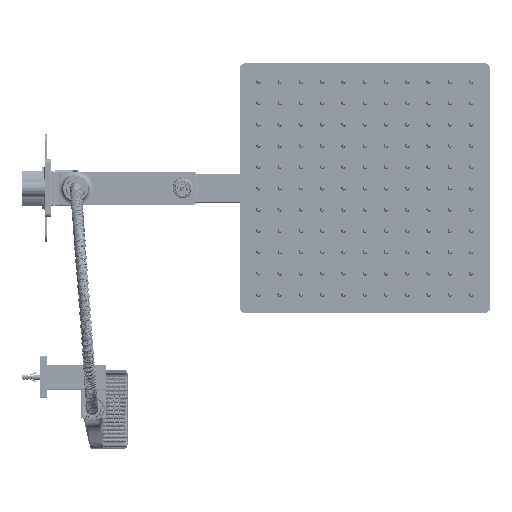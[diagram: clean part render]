
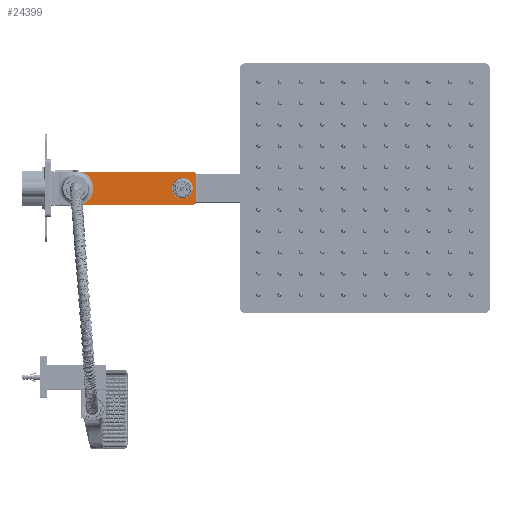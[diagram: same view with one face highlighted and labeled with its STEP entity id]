
A CAD part, front view. The second image highlights one B-rep face of the part: STEP entity #24399.
In plain terms, the highlighted planar face has unit normal (0, -1, 0).
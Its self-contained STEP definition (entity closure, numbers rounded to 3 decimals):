
#20790=DIRECTION('',(1.,0.,0.));
#20791=VECTOR('',#20790,132.463);
#20792=CARTESIAN_POINT('',(7.537,-16.,
-19.5));
#20793=LINE('',#20792,#20791);
#20797=DIRECTION('',(-1.,0.,0.));
#20798=VECTOR('',#20797,132.463);
#20799=CARTESIAN_POINT('',(140.,-16.,19.5));
#20800=LINE('',#20799,#20798);
#20804=CARTESIAN_POINT('',(140.,-16.,15.));
#20805=DIRECTION('',(0.,-1.,0.));
#20806=DIRECTION('',(1.,0.,0.));
#20807=AXIS2_PLACEMENT_3D('',#20804,#20805,#20806);
#20812=DIRECTION('',(0.,0.,1.));
#20813=VECTOR('',#20812,30.);
#20814=CARTESIAN_POINT('',(144.5,-16.,-15.));
#20815=LINE('',#20814,#20813);
#20819=CARTESIAN_POINT('',(140.,-16.,-15.));
#20820=DIRECTION('',(0.,-1.,0.));
#20821=DIRECTION('',(0.,0.,-1.));
#20822=AXIS2_PLACEMENT_3D('',#20819,#20820,#20821);
#20827=CARTESIAN_POINT('',(115.703,-16.,0.));
#20828=CARTESIAN_POINT('',(115.703,-16.,1.444));
#20829=CARTESIAN_POINT('',(116.228,-16.,4.564));
#20830=CARTESIAN_POINT('',(118.576,-16.,8.191));
#20831=CARTESIAN_POINT('',(121.232,-16.,10.33));
#20832=CARTESIAN_POINT('',(123.458,-16.,11.472));
#20833=CARTESIAN_POINT('',(125.779,-16.,12.122));
#20834=CARTESIAN_POINT('',(128.,-16.,12.314));
#20835=CARTESIAN_POINT('',(130.221,-16.,12.122));
#20836=CARTESIAN_POINT('',(132.542,-16.,11.472));
#20837=CARTESIAN_POINT('',(134.768,-16.,10.33));
#20838=CARTESIAN_POINT('',(137.424,-16.,8.191));
#20839=CARTESIAN_POINT('',(139.772,-16.,4.564));
#20840=CARTESIAN_POINT('',(140.297,-16.,1.444));
#20841=CARTESIAN_POINT('',(140.297,-16.,0.));
#20846=CARTESIAN_POINT('',(140.297,-16.,0.));
#20847=CARTESIAN_POINT('',(140.297,-16.,-1.444));
#20848=CARTESIAN_POINT('',(139.772,-16.,-4.564));
#20849=CARTESIAN_POINT('',(137.424,-16.,-8.191));
#20850=CARTESIAN_POINT('',(134.768,-16.,-10.33));
#20851=CARTESIAN_POINT('',(132.542,-16.,-11.472));
#20852=CARTESIAN_POINT('',(130.221,-16.,-12.122));
#20853=CARTESIAN_POINT('',(128.,-16.,-12.314));
#20854=CARTESIAN_POINT('',(125.779,-16.,-12.122));
#20855=CARTESIAN_POINT('',(123.458,-16.,-11.472));
#20856=CARTESIAN_POINT('',(121.232,-16.,-10.33));
#20857=CARTESIAN_POINT('',(118.576,-16.,-8.191));
#20858=CARTESIAN_POINT('',(116.228,-16.,-4.564));
#20859=CARTESIAN_POINT('',(115.703,-16.,-1.444));
#20860=CARTESIAN_POINT('',(115.703,-16.,0.));
#20955=CARTESIAN_POINT('',(0.,-16.,0.));
#20956=DIRECTION('',(0.,1.,0.));
#20957=DIRECTION('',(0.361,0.,0.933));
#20958=AXIS2_PLACEMENT_3D('',#20955,#20956,#20957);
#20987=CARTESIAN_POINT('',(7.537,-16.,
-19.5));
#23053=VERTEX_POINT('',#20827);
#23054=VERTEX_POINT('',#20841);
#23119=VERTEX_POINT('',#20987);
#23121=CARTESIAN_POINT('',(140.,-16.,-19.5));
#23122=VERTEX_POINT('',#23121);
#23123=CARTESIAN_POINT('',(144.5,-16.,-15.));
#23124=VERTEX_POINT('',#23123);
#23125=CARTESIAN_POINT('',(144.5,-16.,15.));
#23126=VERTEX_POINT('',#23125);
#23127=CARTESIAN_POINT('',(140.,-16.,19.5));
#23128=VERTEX_POINT('',#23127);
#23129=CARTESIAN_POINT('',(7.537,-16.,
19.5));
#23130=VERTEX_POINT('',#23129);
#24375=CARTESIAN_POINT('',(-30.,-16.,-20.));
#24376=DIRECTION('',(0.,-1.,0.));
#24377=DIRECTION('',(1.,0.,0.));
#24378=AXIS2_PLACEMENT_3D('',#24375,#24376,#24377);
#24379=PLANE('',#24378);
#24381=ORIENTED_EDGE('',*,*,#24380,.F.);
#24383=ORIENTED_EDGE('',*,*,#24382,.F.);
#24385=ORIENTED_EDGE('',*,*,#24384,.F.);
#24387=ORIENTED_EDGE('',*,*,#24386,.F.);
#24389=ORIENTED_EDGE('',*,*,#24388,.F.);
#24391=ORIENTED_EDGE('',*,*,#24390,.F.);
#24392=EDGE_LOOP('',(#24381,#24383,#24385,#24387,#24389,#24391));
#24393=FACE_OUTER_BOUND('',#24392,.F.);
#24395=ORIENTED_EDGE('',*,*,#24394,.F.);
#24396=ORIENTED_EDGE('',*,*,#24312,.F.);
#24397=EDGE_LOOP('',(#24395,#24396));
#24398=FACE_BOUND('',#24397,.F.);
#20808=CIRCLE('',#20807,4.5);
#20823=CIRCLE('',#20822,4.5);
#20842=B_SPLINE_CURVE_WITH_KNOTS('',3,(#20827,#20828,#20829,#20830,#20831,
#20832,#20833,#20834,#20835,#20836,#20837,#20838,#20839,#20840,#20841),
.UNSPECIFIED.,.F.,.F.,(4,1,1,1,1,1,1,1,1,1,1,1,4),(0.,0.125,0.25,0.313,
0.375,0.438,0.5,0.563,0.625,0.688,0.75,0.875,1.),
.UNSPECIFIED.);
#20861=B_SPLINE_CURVE_WITH_KNOTS('',3,(#20846,#20847,#20848,#20849,#20850,
#20851,#20852,#20853,#20854,#20855,#20856,#20857,#20858,#20859,#20860),
.UNSPECIFIED.,.F.,.F.,(4,1,1,1,1,1,1,1,1,1,1,1,4),(0.,0.125,0.25,0.313,
0.375,0.438,0.5,0.563,0.625,0.688,0.75,0.875,1.),
.UNSPECIFIED.);
#20959=CIRCLE('',#20958,20.907);
#24312=EDGE_CURVE('',#23054,#23053,#20861,.T.);
#24380=EDGE_CURVE('',#23119,#23122,#20793,.T.);
#24382=EDGE_CURVE('',#23130,#23119,#20959,.T.);
#24384=EDGE_CURVE('',#23128,#23130,#20800,.T.);
#24386=EDGE_CURVE('',#23126,#23128,#20808,.T.);
#24388=EDGE_CURVE('',#23124,#23126,#20815,.T.);
#24390=EDGE_CURVE('',#23122,#23124,#20823,.T.);
#24394=EDGE_CURVE('',#23053,#23054,#20842,.T.);
#24399=ADVANCED_FACE('',(#24393,#24398),#24379,.T.);
